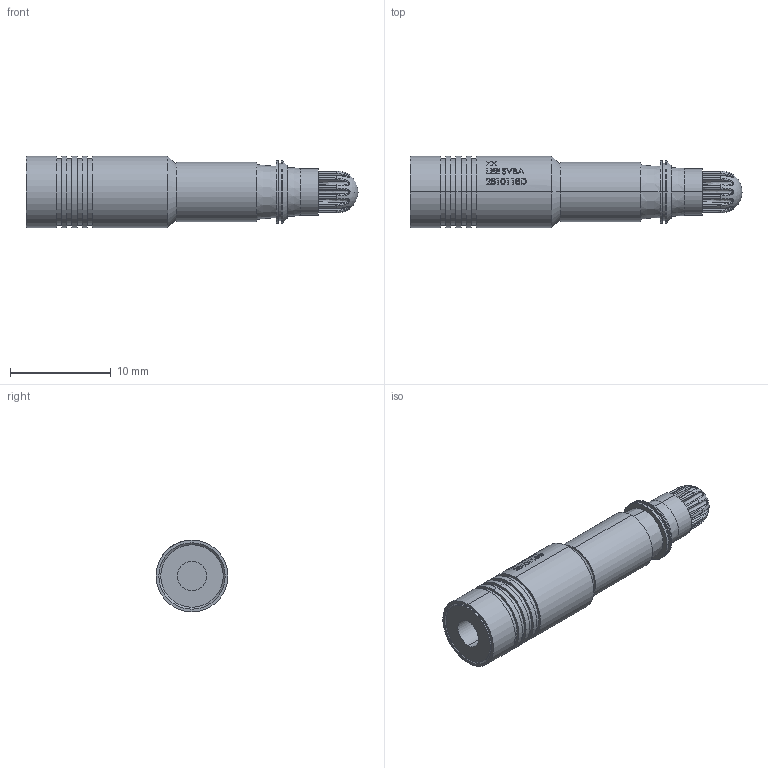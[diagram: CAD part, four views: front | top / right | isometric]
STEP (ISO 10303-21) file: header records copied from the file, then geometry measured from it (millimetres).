
FILE_DESCRIPTION (( 'STEP AP214' ), '1' );
FILE_NAME ('3DSVBA2810118D.STEP', '2021-04-01T12:37:48', ( '' ), ( '' ), 'SwSTEP 2.0', 'SolidWorks 2019', '' );
FILE_SCHEMA (( 'AUTOMOTIVE_DESIGN' ));
Length unit declared in the file: inch
Products named in the file (1): 3DSVBA2810118D
Bounding box: 33.02 x 7.14 x 7.14 mm (x, y, z)
Volume: 914.5 mm3; surface area: 874.6 mm2
Topology: 2 solids, 2 shells, 390 faces, 977 edges, 633 vertices
Faces by surface type: bspline 161, plane 123, cylinder 70, torus 24, cone 10, sphere 2
Entity records: 20625 total; most frequent: CARTESIAN_POINT 8296, ORIENTED_EDGE 1954, DIRECTION 1238, EDGE_CURVE 977, VERTEX_POINT 633, AXIS2_PLACEMENT_3D 494, EDGE_LOOP 432, B_SPLINE_CURVE_WITH_KNOTS 415
